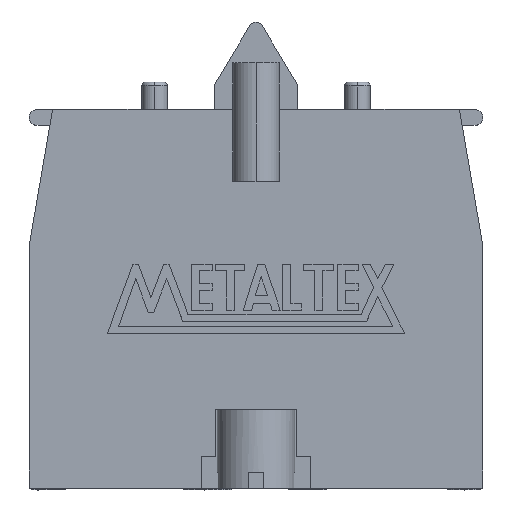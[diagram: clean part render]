
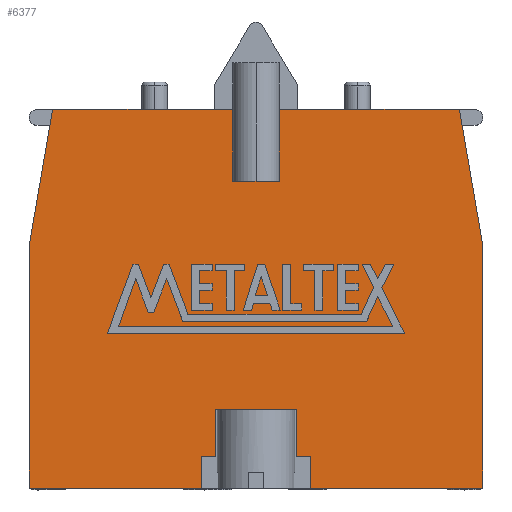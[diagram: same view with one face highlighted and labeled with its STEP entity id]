
A CAD part, top view. The second image highlights one B-rep face of the part: STEP entity #6377.
In plain terms, the highlighted planar face has unit normal (0, 0, 1).
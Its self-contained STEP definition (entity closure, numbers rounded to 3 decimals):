
#3179 = DIRECTION ( 'NONE',  ( 1., 0., 0. ) ) ;
#3180 = DIRECTION ( 'NONE',  ( 0., 0., 1. ) ) ;
#3181 = CARTESIAN_POINT ( 'NONE',  ( 0., 0., 7.45 ) ) ;
#3182 = PLANE ( 'NONE',  #9455 ) ;
#3627 = DIRECTION ( 'NONE',  ( 0., 1., 0. ) ) ;
#3628 = CARTESIAN_POINT ( 'NONE',  ( 2.6, 0., 7.45 ) ) ;
#3629 = LINE ( 'NONE', #3628, #9326 ) ;
#3657 = DIRECTION ( 'NONE',  ( -0.17, -0.985, 0. ) ) ;
#3658 = CARTESIAN_POINT ( 'NONE',  ( -13., 24.2, 7.45 ) ) ;
#3659 = LINE ( 'NONE', #3658, #9336 ) ;
#3805 = CARTESIAN_POINT ( 'NONE',  ( 2.6, 2., 7.45 ) ) ;
#3806 = CARTESIAN_POINT ( 'NONE',  ( -2.6, 2., 7.45 ) ) ;
#3807 = CARTESIAN_POINT ( 'NONE',  ( -3.5, 2., 7.45 ) ) ;
#3812 = CARTESIAN_POINT ( 'NONE',  ( 3.5, 2., 7.45 ) ) ;
#4007 = CARTESIAN_POINT ( 'NONE',  ( -1.5, 19.6, 7.45 ) ) ;
#4008 = CARTESIAN_POINT ( 'NONE',  ( 1.5, 19.6, 7.45 ) ) ;
#4013 = CARTESIAN_POINT ( 'NONE',  ( -2.6, 5., 7.45 ) ) ;
#4124 = CARTESIAN_POINT ( 'NONE',  ( 14.5, 15.5, 7.45 ) ) ;
#4127 = CARTESIAN_POINT ( 'NONE',  ( 13., 24.2, 7.45 ) ) ;
#4185 = CARTESIAN_POINT ( 'NONE',  ( -1.5, 24.2, 7.45 ) ) ;
#4186 = CARTESIAN_POINT ( 'NONE',  ( 1.5, 24.2, 7.45 ) ) ;
#4188 = CARTESIAN_POINT ( 'NONE',  ( -13., 24.2, 7.45 ) ) ;
#4196 = CARTESIAN_POINT ( 'NONE',  ( -14.5, 0., 7.45 ) ) ;
#4199 = CARTESIAN_POINT ( 'NONE',  ( -3.5, 0., 7.45 ) ) ;
#4201 = CARTESIAN_POINT ( 'NONE',  ( 14.5, 0., 7.45 ) ) ;
#4202 = CARTESIAN_POINT ( 'NONE',  ( -14.5, 15.5, 7.45 ) ) ;
#4203 = CARTESIAN_POINT ( 'NONE',  ( 3.5, 0., 7.45 ) ) ;
#4291 = CARTESIAN_POINT ( 'NONE',  ( 2.6, 5., 7.45 ) ) ;
#4538 = DIRECTION ( 'NONE',  ( 0., 1., 0. ) ) ;
#4539 = CARTESIAN_POINT ( 'NONE',  ( -1.5, 19.6, 7.45 ) ) ;
#4540 = LINE ( 'NONE', #4539, #9358 ) ;
#4544 = DIRECTION ( 'NONE',  ( 0., 1., 0. ) ) ;
#4545 = CARTESIAN_POINT ( 'NONE',  ( -2.6, 0., 7.45 ) ) ;
#4546 = LINE ( 'NONE', #4545, #9360 ) ;
#4547 = DIRECTION ( 'NONE',  ( 0., 1., 0. ) ) ;
#4548 = CARTESIAN_POINT ( 'NONE',  ( -3.5, 0., 7.45 ) ) ;
#4549 = LINE ( 'NONE', #4548, #9361 ) ;
#4550 = DIRECTION ( 'NONE',  ( 1., 0., 0. ) ) ;
#4551 = CARTESIAN_POINT ( 'NONE',  ( 0., 2., 7.45 ) ) ;
#4552 = LINE ( 'NONE', #4551, #9362 ) ;
#4559 = DIRECTION ( 'NONE',  ( 1., 0., 0. ) ) ;
#4560 = CARTESIAN_POINT ( 'NONE',  ( 0., 2., 7.45 ) ) ;
#4561 = LINE ( 'NONE', #4560, #9365 ) ;
#4562 = DIRECTION ( 'NONE',  ( 0., 1., 0. ) ) ;
#4563 = CARTESIAN_POINT ( 'NONE',  ( 1.5, 19.6, 7.45 ) ) ;
#4564 = LINE ( 'NONE', #4563, #9366 ) ;
#4571 = DIRECTION ( 'NONE',  ( 0., 1., 0. ) ) ;
#4572 = CARTESIAN_POINT ( 'NONE',  ( 3.5, 0., 7.45 ) ) ;
#4573 = LINE ( 'NONE', #4572, #9369 ) ;
#4631 = DIRECTION ( 'NONE',  ( 0., 1., 0. ) ) ;
#4632 = CARTESIAN_POINT ( 'NONE',  ( 14.5, 0., 7.45 ) ) ;
#4633 = LINE ( 'NONE', #4632, #9098 ) ;
#4710 = DIRECTION ( 'NONE',  ( -1., 0., 0. ) ) ;
#4711 = CARTESIAN_POINT ( 'NONE',  ( 0., 5., 7.45 ) ) ;
#4712 = LINE ( 'NONE', #4711, #9119 ) ;
#4713 = DIRECTION ( 'NONE',  ( 0., -1., 0. ) ) ;
#4714 = CARTESIAN_POINT ( 'NONE',  ( -14.5, 15.5, 7.45 ) ) ;
#4715 = LINE ( 'NONE', #4714, #9114 ) ;
#4725 = DIRECTION ( 'NONE',  ( -1., 0., 0. ) ) ;
#4726 = CARTESIAN_POINT ( 'NONE',  ( 0., 19.6, 7.45 ) ) ;
#4727 = LINE ( 'NONE', #4726, #9108 ) ;
#5048 = DIRECTION ( 'NONE',  ( -0.17, 0.985, 0. ) ) ;
#5049 = CARTESIAN_POINT ( 'NONE',  ( 14.5, 15.5, 7.45 ) ) ;
#5050 = LINE ( 'NONE', #5049, #9751 ) ;
#5482 = DIRECTION ( 'NONE',  ( -1., 0., 0. ) ) ;
#5483 = CARTESIAN_POINT ( 'NONE',  ( 13., 24.2, 7.45 ) ) ;
#5484 = LINE ( 'NONE', #5483, #9905 ) ;
#5613 = DIRECTION ( 'NONE',  ( 1., 0., 0. ) ) ;
#5614 = CARTESIAN_POINT ( 'NONE',  ( -14.5, 0., 7.45 ) ) ;
#5615 = LINE ( 'NONE', #5614, #9831 ) ;
#5629 = DIRECTION ( 'NONE',  ( -1., 0., 0. ) ) ;
#5630 = CARTESIAN_POINT ( 'NONE',  ( 13., 24.2, 7.45 ) ) ;
#5631 = LINE ( 'NONE', #5630, #9836 ) ;
#5653 = DIRECTION ( 'NONE',  ( 1., 0., 0. ) ) ;
#5654 = CARTESIAN_POINT ( 'NONE',  ( -14.5, 0., 7.45 ) ) ;
#5655 = LINE ( 'NONE', #5654, #9854 ) ;
#5910 = EDGE_CURVE ( 'NONE', #7588, #7592, #5655, .T. ) ;
#5923 = EDGE_CURVE ( 'NONE', #7604, #7605, #5631, .T. ) ;
#5928 = EDGE_CURVE ( 'NONE', #7593, #7594, #5615, .T. ) ;
#5984 = EDGE_CURVE ( 'NONE', #7666, #7607, #5484, .T. ) ;
#6099 = EDGE_CURVE ( 'NONE', #7665, #7666, #5050, .T. ) ;
#6175 = EDGE_CURVE ( 'NONE', #7558, #7562, #4727, .T. ) ;
#6179 = EDGE_CURVE ( 'NONE', #7568, #7593, #4715, .T. ) ;
#6180 = EDGE_CURVE ( 'NONE', #7570, #7556, #4712, .T. ) ;
#6206 = EDGE_CURVE ( 'NONE', #7592, #7665, #4633, .T. ) ;
#6226 = EDGE_CURVE ( 'NONE', #7588, #7506, #4573, .T. ) ;
#6229 = EDGE_CURVE ( 'NONE', #7558, #7607, #4564, .T. ) ;
#6230 = EDGE_CURVE ( 'NONE', #7507, #7506, #4561, .T. ) ;
#6233 = EDGE_CURVE ( 'NONE', #7509, #7508, #4552, .T. ) ;
#6234 = EDGE_CURVE ( 'NONE', #7594, #7509, #4549, .T. ) ;
#6235 = EDGE_CURVE ( 'NONE', #7508, #7556, #4546, .T. ) ;
#6237 = EDGE_CURVE ( 'NONE', #7562, #7604, #4540, .T. ) ;
#6259 = EDGE_CURVE ( 'NONE', #7605, #7568, #3659, .T. ) ;
#6269 = EDGE_CURVE ( 'NONE', #7507, #7570, #3629, .T. ) ;
#6377 = ADVANCED_FACE ( 'NONE', ( #9434 ), #3182, .T. ) ;
#6977 = ORIENTED_EDGE ( 'NONE', *, *, #6235, .T. ) ;
#6980 = ORIENTED_EDGE ( 'NONE', *, *, #6206, .T. ) ;
#6982 = ORIENTED_EDGE ( 'NONE', *, *, #6230, .T. ) ;
#6984 = ORIENTED_EDGE ( 'NONE', *, *, #6099, .T. ) ;
#7003 = ORIENTED_EDGE ( 'NONE', *, *, #6175, .T. ) ;
#7009 = ORIENTED_EDGE ( 'NONE', *, *, #6229, .F. ) ;
#7012 = ORIENTED_EDGE ( 'NONE', *, *, #5910, .T. ) ;
#7014 = ORIENTED_EDGE ( 'NONE', *, *, #5923, .T. ) ;
#7017 = ORIENTED_EDGE ( 'NONE', *, *, #5928, .T. ) ;
#7019 = ORIENTED_EDGE ( 'NONE', *, *, #6226, .F. ) ;
#7024 = ORIENTED_EDGE ( 'NONE', *, *, #6269, .F. ) ;
#7025 = ORIENTED_EDGE ( 'NONE', *, *, #6179, .T. ) ;
#7027 = ORIENTED_EDGE ( 'NONE', *, *, #6234, .T. ) ;
#7029 = ORIENTED_EDGE ( 'NONE', *, *, #6233, .T. ) ;
#7031 = ORIENTED_EDGE ( 'NONE', *, *, #6180, .F. ) ;
#7034 = ORIENTED_EDGE ( 'NONE', *, *, #6237, .T. ) ;
#7036 = ORIENTED_EDGE ( 'NONE', *, *, #6259, .T. ) ;
#7041 = ORIENTED_EDGE ( 'NONE', *, *, #5984, .T. ) ;
#7354 = EDGE_LOOP ( 'NONE', ( #7034, #7014, #7036, #7025, #7017, #7027, #7029, #6977, #7031, #7024, #6982, #7019, #7012, #6980, #6984, #7041, #7009, #7003 ) ) ;
#7506 = VERTEX_POINT ( 'NONE', #3812 ) ;
#7507 = VERTEX_POINT ( 'NONE', #3805 ) ;
#7508 = VERTEX_POINT ( 'NONE', #3806 ) ;
#7509 = VERTEX_POINT ( 'NONE', #3807 ) ;
#7556 = VERTEX_POINT ( 'NONE', #4013 ) ;
#7558 = VERTEX_POINT ( 'NONE', #4008 ) ;
#7562 = VERTEX_POINT ( 'NONE', #4007 ) ;
#7568 = VERTEX_POINT ( 'NONE', #4202 ) ;
#7570 = VERTEX_POINT ( 'NONE', #4291 ) ;
#7588 = VERTEX_POINT ( 'NONE', #4203 ) ;
#7592 = VERTEX_POINT ( 'NONE', #4201 ) ;
#7593 = VERTEX_POINT ( 'NONE', #4196 ) ;
#7594 = VERTEX_POINT ( 'NONE', #4199 ) ;
#7604 = VERTEX_POINT ( 'NONE', #4185 ) ;
#7605 = VERTEX_POINT ( 'NONE', #4188 ) ;
#7607 = VERTEX_POINT ( 'NONE', #4186 ) ;
#7665 = VERTEX_POINT ( 'NONE', #4124 ) ;
#7666 = VERTEX_POINT ( 'NONE', #4127 ) ;
#9098 = VECTOR ( 'NONE', #4631, 1000. ) ;
#9108 = VECTOR ( 'NONE', #4725, 1000. ) ;
#9114 = VECTOR ( 'NONE', #4713, 1000. ) ;
#9119 = VECTOR ( 'NONE', #4710, 1000. ) ;
#9326 = VECTOR ( 'NONE', #3627, 1000. ) ;
#9336 = VECTOR ( 'NONE', #3657, 1000. ) ;
#9358 = VECTOR ( 'NONE', #4538, 1000. ) ;
#9360 = VECTOR ( 'NONE', #4544, 1000. ) ;
#9361 = VECTOR ( 'NONE', #4547, 1000. ) ;
#9362 = VECTOR ( 'NONE', #4550, 1000. ) ;
#9365 = VECTOR ( 'NONE', #4559, 1000. ) ;
#9366 = VECTOR ( 'NONE', #4562, 1000. ) ;
#9369 = VECTOR ( 'NONE', #4571, 1000. ) ;
#9434 = FACE_OUTER_BOUND ( 'NONE', #7354, .T. ) ;
#9455 = AXIS2_PLACEMENT_3D ( 'NONE', #3181, #3180, #3179 ) ;
#9751 = VECTOR ( 'NONE', #5048, 1000. ) ;
#9831 = VECTOR ( 'NONE', #5613, 1000. ) ;
#9836 = VECTOR ( 'NONE', #5629, 1000. ) ;
#9854 = VECTOR ( 'NONE', #5653, 1000. ) ;
#9905 = VECTOR ( 'NONE', #5482, 1000. ) ;
